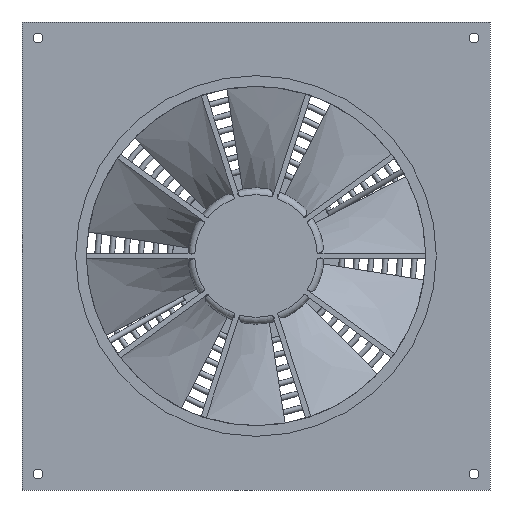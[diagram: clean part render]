
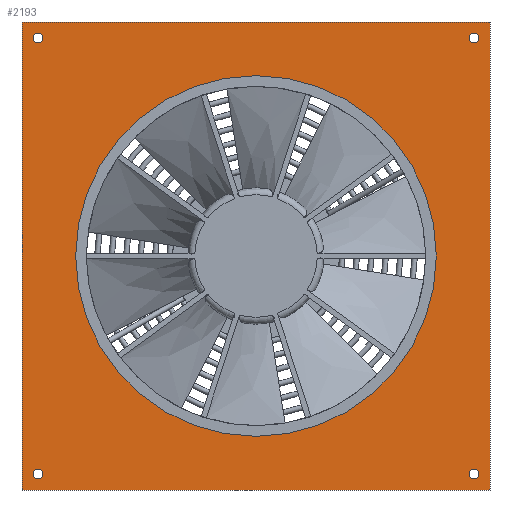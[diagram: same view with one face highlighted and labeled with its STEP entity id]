
A CAD part, front view. The second image highlights one B-rep face of the part: STEP entity #2193.
In plain terms, the highlighted planar face has unit normal (0, -1, 0).
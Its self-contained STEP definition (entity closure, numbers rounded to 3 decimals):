
#73=FACE_BOUND('',#680,.T.);
#74=FACE_BOUND('',#681,.T.);
#75=FACE_BOUND('',#682,.T.);
#76=FACE_BOUND('',#683,.T.);
#77=FACE_BOUND('',#684,.T.);
#105=PLANE('',#2412);
#298=LINE('',#4645,#389);
#300=LINE('',#4652,#391);
#302=LINE('',#4658,#393);
#303=LINE('',#4660,#394);
#389=VECTOR('',#2762,10.);
#391=VECTOR('',#2770,10.);
#393=VECTOR('',#2776,10.);
#394=VECTOR('',#2779,10.);
#560=FACE_OUTER_BOUND('',#679,.T.);
#679=EDGE_LOOP('',(#2063,#2064,#2065,#2066));
#680=EDGE_LOOP('',(#2067,#2068));
#681=EDGE_LOOP('',(#2069,#2070));
#682=EDGE_LOOP('',(#2071,#2072));
#683=EDGE_LOOP('',(#2073,#2074));
#684=EDGE_LOOP('',(#2075));
#790=CIRCLE('',#2395,4.5);
#791=CIRCLE('',#2396,4.5);
#792=CIRCLE('',#2398,4.5);
#793=CIRCLE('',#2399,4.5);
#794=CIRCLE('',#2401,4.5);
#795=CIRCLE('',#2402,4.5);
#796=CIRCLE('',#2404,4.5);
#797=CIRCLE('',#2405,4.5);
#799=CIRCLE('',#2408,169.5);
#997=VERTEX_POINT('',#4642);
#998=VERTEX_POINT('',#4644);
#1000=VERTEX_POINT('',#4650);
#1002=VERTEX_POINT('',#4656);
#1007=VERTEX_POINT('',#5460);
#1008=VERTEX_POINT('',#5461);
#1009=VERTEX_POINT('',#5466);
#1010=VERTEX_POINT('',#5467);
#1011=VERTEX_POINT('',#5472);
#1012=VERTEX_POINT('',#5473);
#1013=VERTEX_POINT('',#5478);
#1014=VERTEX_POINT('',#5479);
#1016=VERTEX_POINT('',#5486);
#1288=EDGE_CURVE('',#998,#997,#298,.T.);
#1292=EDGE_CURVE('',#997,#1000,#300,.T.);
#1295=EDGE_CURVE('',#1000,#1002,#302,.T.);
#1296=EDGE_CURVE('',#1002,#998,#303,.T.);
#1354=EDGE_CURVE('',#1007,#1008,#790,.T.);
#1355=EDGE_CURVE('',#1008,#1007,#791,.T.);
#1357=EDGE_CURVE('',#1009,#1010,#792,.T.);
#1358=EDGE_CURVE('',#1010,#1009,#793,.T.);
#1360=EDGE_CURVE('',#1011,#1012,#794,.T.);
#1361=EDGE_CURVE('',#1012,#1011,#795,.T.);
#1363=EDGE_CURVE('',#1013,#1014,#796,.T.);
#1364=EDGE_CURVE('',#1014,#1013,#797,.T.);
#1368=EDGE_CURVE('',#1016,#1016,#799,.T.);
#2063=ORIENTED_EDGE('',*,*,#1288,.T.);
#2064=ORIENTED_EDGE('',*,*,#1292,.T.);
#2065=ORIENTED_EDGE('',*,*,#1295,.T.);
#2066=ORIENTED_EDGE('',*,*,#1296,.T.);
#2067=ORIENTED_EDGE('',*,*,#1354,.T.);
#2068=ORIENTED_EDGE('',*,*,#1355,.T.);
#2069=ORIENTED_EDGE('',*,*,#1357,.T.);
#2070=ORIENTED_EDGE('',*,*,#1358,.T.);
#2071=ORIENTED_EDGE('',*,*,#1360,.T.);
#2072=ORIENTED_EDGE('',*,*,#1361,.T.);
#2073=ORIENTED_EDGE('',*,*,#1363,.T.);
#2074=ORIENTED_EDGE('',*,*,#1364,.T.);
#2075=ORIENTED_EDGE('',*,*,#1368,.T.);
#2193=ADVANCED_FACE('',(#560,#73,#74,#75,#76,#77),#105,.F.);
#2395=AXIS2_PLACEMENT_3D('',#5462,#2847,#2848);
#2396=AXIS2_PLACEMENT_3D('',#5463,#2849,#2850);
#2398=AXIS2_PLACEMENT_3D('',#5468,#2854,#2855);
#2399=AXIS2_PLACEMENT_3D('',#5469,#2856,#2857);
#2401=AXIS2_PLACEMENT_3D('',#5474,#2861,#2862);
#2402=AXIS2_PLACEMENT_3D('',#5475,#2863,#2864);
#2404=AXIS2_PLACEMENT_3D('',#5480,#2868,#2869);
#2405=AXIS2_PLACEMENT_3D('',#5481,#2870,#2871);
#2408=AXIS2_PLACEMENT_3D('',#5488,#2878,#2879);
#2412=AXIS2_PLACEMENT_3D('',#5492,#2886,#2887);
#2762=DIRECTION('',(1.,0.,0.));
#2770=DIRECTION('',(0.,0.,1.));
#2776=DIRECTION('',(-1.,0.,0.));
#2779=DIRECTION('',(0.,0.,-1.));
#2847=DIRECTION('center_axis',(0.,1.,0.));
#2848=DIRECTION('ref_axis',(1.,0.,0.));
#2849=DIRECTION('center_axis',(0.,1.,0.));
#2850=DIRECTION('ref_axis',(1.,0.,0.));
#2854=DIRECTION('center_axis',(0.,1.,0.));
#2855=DIRECTION('ref_axis',(1.,0.,0.));
#2856=DIRECTION('center_axis',(0.,1.,0.));
#2857=DIRECTION('ref_axis',(1.,0.,0.));
#2861=DIRECTION('center_axis',(0.,1.,0.));
#2862=DIRECTION('ref_axis',(1.,0.,0.));
#2863=DIRECTION('center_axis',(0.,1.,0.));
#2864=DIRECTION('ref_axis',(1.,0.,0.));
#2868=DIRECTION('center_axis',(0.,1.,0.));
#2869=DIRECTION('ref_axis',(1.,0.,0.));
#2870=DIRECTION('center_axis',(0.,1.,0.));
#2871=DIRECTION('ref_axis',(1.,0.,0.));
#2878=DIRECTION('center_axis',(0.,1.,0.));
#2879=DIRECTION('ref_axis',(-1.,0.,0.));
#2886=DIRECTION('center_axis',(0.,1.,0.));
#2887=DIRECTION('ref_axis',(0.,0.,1.));
#4642=CARTESIAN_POINT('',(220.,0.,-220.));
#4644=CARTESIAN_POINT('',(-220.,0.,-220.));
#4645=CARTESIAN_POINT('',(-220.,0.,-220.));
#4650=CARTESIAN_POINT('',(220.,0.,220.));
#4652=CARTESIAN_POINT('',(220.,0.,-220.));
#4656=CARTESIAN_POINT('',(-220.,0.,220.));
#4658=CARTESIAN_POINT('',(220.,0.,220.));
#4660=CARTESIAN_POINT('',(-220.,0.,220.));
#5460=CARTESIAN_POINT('',(-200.5,0.,-205.));
#5461=CARTESIAN_POINT('',(-209.5,0.,-205.));
#5462=CARTESIAN_POINT('Origin',(-205.,0.,-205.));
#5463=CARTESIAN_POINT('Origin',(-205.,0.,-205.));
#5466=CARTESIAN_POINT('',(209.5,0.,205.));
#5467=CARTESIAN_POINT('',(200.5,0.,205.));
#5468=CARTESIAN_POINT('Origin',(205.,0.,205.));
#5469=CARTESIAN_POINT('Origin',(205.,0.,205.));
#5472=CARTESIAN_POINT('',(209.5,0.,-205.));
#5473=CARTESIAN_POINT('',(200.5,0.,-205.));
#5474=CARTESIAN_POINT('Origin',(205.,0.,-205.));
#5475=CARTESIAN_POINT('Origin',(205.,0.,-205.));
#5478=CARTESIAN_POINT('',(-200.5,0.,205.));
#5479=CARTESIAN_POINT('',(-209.5,0.,205.));
#5480=CARTESIAN_POINT('Origin',(-205.,0.,205.));
#5481=CARTESIAN_POINT('Origin',(-205.,0.,205.));
#5486=CARTESIAN_POINT('',(169.5,0.,0.));
#5488=CARTESIAN_POINT('Origin',(0.,0.,0.));
#5492=CARTESIAN_POINT('Origin',(0.,0.,0.));
